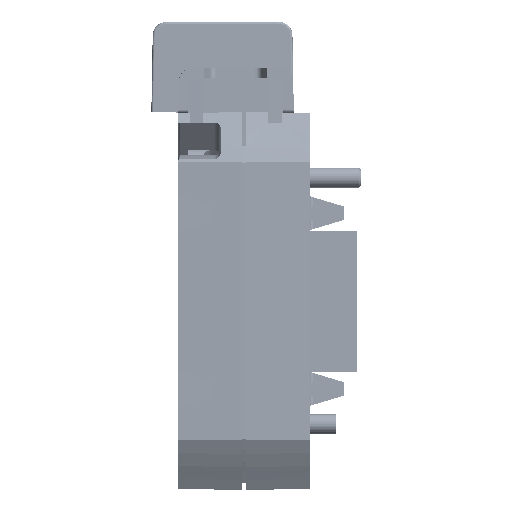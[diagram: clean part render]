
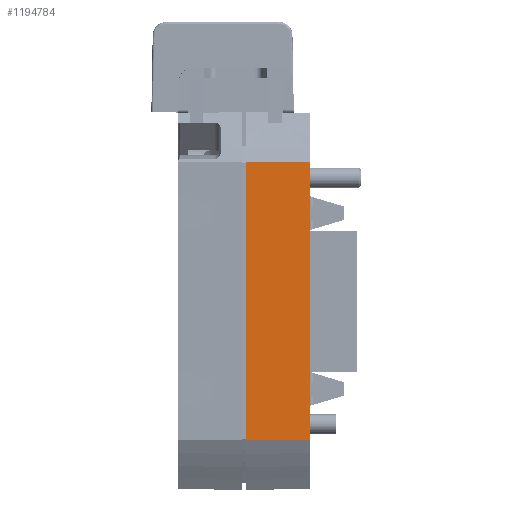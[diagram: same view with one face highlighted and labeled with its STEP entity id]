
A CAD part, left-side view. The second image highlights one B-rep face of the part: STEP entity #1194784.
In plain terms, the highlighted planar face has unit normal (-1, -0.018, 0) as drawn and (1, 0.017, 0) by its records, which use the part's own axes.
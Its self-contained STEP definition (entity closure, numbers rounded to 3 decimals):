
#67809 = ORIENTED_EDGE ( 'NONE', *, *, #246188, .F. ) ;
#70620 = ORIENTED_EDGE ( 'NONE', *, *, #113364, .T. ) ;
#100103 = LINE ( 'NONE', #1107687, #473818 ) ;
#107256 = ORIENTED_EDGE ( 'NONE', *, *, #175536, .F. ) ;
#113364 = EDGE_CURVE ( 'NONE', #1277479, #536705, #513474, .T. ) ;
#175536 = EDGE_CURVE ( 'NONE', #343140, #289717, #1082759, .T. ) ;
#246188 = EDGE_CURVE ( 'NONE', #1277479, #343140, #100103, .T. ) ;
#289717 = VERTEX_POINT ( 'NONE', #776222 ) ;
#318321 = DIRECTION ( 'NONE',  ( 0., 0., -1. ) ) ;
#329900 = EDGE_LOOP ( 'NONE', ( #494900, #107256, #67809, #70620 ) ) ;
#343140 = VERTEX_POINT ( 'NONE', #1234532 ) ;
#353312 = CARTESIAN_POINT ( 'NONE',  ( 44.766, 0., 20.606 ) ) ;
#419178 = FACE_OUTER_BOUND ( 'NONE', #329900, .T. ) ;
#473818 = VECTOR ( 'NONE', #318321, 1000. ) ;
#494900 = ORIENTED_EDGE ( 'NONE', *, *, #800977, .T. ) ;
#513474 =( BOUNDED_CURVE ( )  B_SPLINE_CURVE ( 2, ( #1162344, #1168913, #353312 ),
 .UNSPECIFIED., .F., .F. ) 
 B_SPLINE_CURVE_WITH_KNOTS ( ( 3, 3 ),
 ( 0.1, 1.05 ),
 .UNSPECIFIED. ) 
 CURVE ( )  GEOMETRIC_REPRESENTATION_ITEM ( )  RATIONAL_B_SPLINE_CURVE ( ( 1., 1., 1. ) ) 
 REPRESENTATION_ITEM ( '' )  );
#525202 = DIRECTION ( 'NONE',  ( 0., 0., -1. ) ) ;
#536705 = VERTEX_POINT ( 'NONE', #749502 ) ;
#550462 = CARTESIAN_POINT ( 'NONE',  ( 44.766, 0., 20.606 ) ) ;
#556969 = LINE ( 'NONE', #550462, #737669 ) ;
#737669 = VECTOR ( 'NONE', #868537, 1000. ) ;
#749502 = CARTESIAN_POINT ( 'NONE',  ( 44.766, 0., 20.606 ) ) ;
#776222 = CARTESIAN_POINT ( 'NONE',  ( 44.766, 0., -20.606 ) ) ;
#800977 = EDGE_CURVE ( 'NONE', #536705, #289717, #556969, .T. ) ;
#823623 = DIRECTION ( 'NONE',  ( 1., 0.017, 0. ) ) ;
#868537 = DIRECTION ( 'NONE',  ( 0., 0., -1. ) ) ;
#880808 = CARTESIAN_POINT ( 'NONE',  ( 44.6, 9.5, -20.57 ) ) ;
#1029135 = PLANE ( 'NONE',  #1271763 ) ;
#1082759 =( BOUNDED_CURVE ( )  B_SPLINE_CURVE ( 2, ( #880808, #1278683, #1285214 ),
 .UNSPECIFIED., .F., .T. ) 
 B_SPLINE_CURVE_WITH_KNOTS ( ( 3, 3 ),
 ( 0.1, 1.05 ),
 .UNSPECIFIED. ) 
 CURVE ( )  GEOMETRIC_REPRESENTATION_ITEM ( )  RATIONAL_B_SPLINE_CURVE ( ( 1., 1., 1. ) ) 
 REPRESENTATION_ITEM ( '' )  );
#1107687 = CARTESIAN_POINT ( 'NONE',  ( 44.6, 9.5, 20.57 ) ) ;
#1109099 = CARTESIAN_POINT ( 'NONE',  ( 44.6, 9.5, 30.187 ) ) ;
#1120354 = CARTESIAN_POINT ( 'NONE',  ( 44.6, 9.5, 20.57 ) ) ;
#1162344 = CARTESIAN_POINT ( 'NONE',  ( 44.6, 9.5, 20.57 ) ) ;
#1168913 = CARTESIAN_POINT ( 'NONE',  ( 44.683, 4.754, 20.588 ) ) ;
#1194784 = ADVANCED_FACE ( 'NONE', ( #419178 ), #1029135, .T. ) ;
#1234532 = CARTESIAN_POINT ( 'NONE',  ( 44.6, 9.5, -20.57 ) ) ;
#1271763 = AXIS2_PLACEMENT_3D ( 'NONE', #1109099, #823623, #525202 ) ;
#1277479 = VERTEX_POINT ( 'NONE', #1120354 ) ;
#1278683 = CARTESIAN_POINT ( 'NONE',  ( 44.683, 4.754, -20.588 ) ) ;
#1285214 = CARTESIAN_POINT ( 'NONE',  ( 44.766, 0., -20.606 ) ) ;
